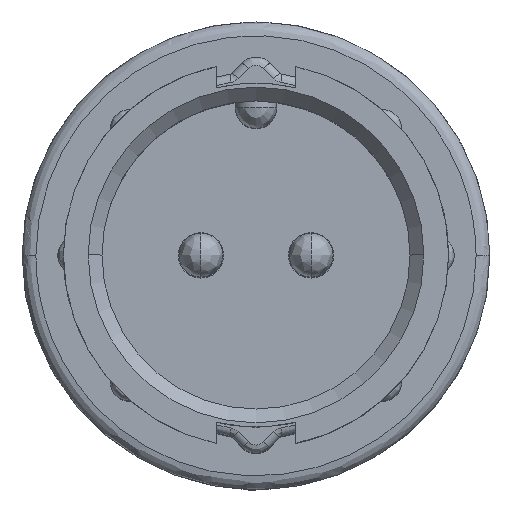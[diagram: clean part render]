
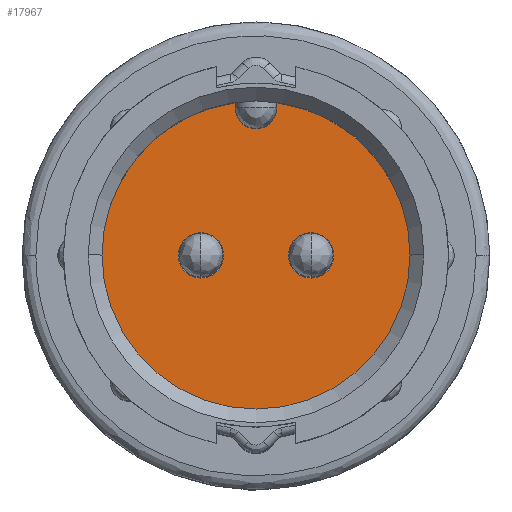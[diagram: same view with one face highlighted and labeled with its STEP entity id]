
A CAD part, top view. The second image highlights one B-rep face of the part: STEP entity #17967.
In plain terms, the highlighted planar face has unit normal (0, 0, 1).
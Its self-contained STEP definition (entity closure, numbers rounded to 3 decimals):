
#10 = CIRCLE ( 'NONE', #24947, 0.825 ) ;
#344 = VECTOR ( 'NONE', #8887, 1000. ) ;
#503 = DIRECTION ( 'NONE',  ( 0., 0., 1. ) ) ;
#588 = AXIS2_PLACEMENT_3D ( 'NONE', #10433, #6310, #15585 ) ;
#786 = DIRECTION ( 'NONE',  ( 1., 0., 0. ) ) ;
#973 = ORIENTED_EDGE ( 'NONE', *, *, #6401, .F. ) ;
#1552 = DIRECTION ( 'NONE',  ( 0., 0., 1. ) ) ;
#1626 = CARTESIAN_POINT ( 'NONE',  ( 0.75, 5.35, -9. ) ) ;
#1907 = CIRCLE ( 'NONE', #17920, 0.825 ) ;
#2811 = EDGE_CURVE ( 'NONE', #20245, #25725, #20908, .T. ) ;
#3041 = DIRECTION ( 'NONE',  ( 0., 0., 1. ) ) ;
#3460 = CARTESIAN_POINT ( 'NONE',  ( 2.825, 0., -9. ) ) ;
#3536 = VERTEX_POINT ( 'NONE', #17130 ) ;
#4273 = EDGE_CURVE ( 'NONE', #8715, #23580, #15720, .T. ) ;
#4515 = CARTESIAN_POINT ( 'NONE',  ( 0., 5.35, -9. ) ) ;
#4625 = CARTESIAN_POINT ( 'NONE',  ( -0.75, -0.026, -9. ) ) ;
#5576 = EDGE_CURVE ( 'NONE', #25853, #20245, #6774, .T. ) ;
#5953 = CARTESIAN_POINT ( 'NONE',  ( -0.75, 5.35, -9. ) ) ;
#6310 = DIRECTION ( 'NONE',  ( 0., 0., 1. ) ) ;
#6401 = EDGE_CURVE ( 'NONE', #16394, #23696, #13193, .T. ) ;
#6407 = DIRECTION ( 'NONE',  ( 1., 0., 0. ) ) ;
#6619 = DIRECTION ( 'NONE',  ( 0., 0., 1. ) ) ;
#6774 = CIRCLE ( 'NONE', #588, 5.6 ) ;
#7330 = EDGE_CURVE ( 'NONE', #3536, #9872, #10, .T. ) ;
#7405 = AXIS2_PLACEMENT_3D ( 'NONE', #4515, #10227, #28205 ) ;
#7903 = EDGE_CURVE ( 'NONE', #25725, #23580, #27010, .T. ) ;
#8166 = CARTESIAN_POINT ( 'NONE',  ( -5.824, -5.825, -9. ) ) ;
#8715 = VERTEX_POINT ( 'NONE', #1626 ) ;
#8779 = DIRECTION ( 'NONE',  ( 0., 0., 1. ) ) ;
#8819 = CARTESIAN_POINT ( 'NONE',  ( 2., 0., -9. ) ) ;
#8887 = DIRECTION ( 'NONE',  ( 0., -1., 0. ) ) ;
#9277 = VECTOR ( 'NONE', #26634, 1000. ) ;
#9872 = VERTEX_POINT ( 'NONE', #12647 ) ;
#9899 = ORIENTED_EDGE ( 'NONE', *, *, #21596, .F. ) ;
#10168 = ORIENTED_EDGE ( 'NONE', *, *, #5576, .T. ) ;
#10227 = DIRECTION ( 'NONE',  ( 0., 0., 1. ) ) ;
#10433 = CARTESIAN_POINT ( 'NONE',  ( 0., 0., -9. ) ) ;
#10665 = DIRECTION ( 'NONE',  ( 0., 0., 1. ) ) ;
#10999 = AXIS2_PLACEMENT_3D ( 'NONE', #18617, #503, #786 ) ;
#11171 = DIRECTION ( 'NONE',  ( 1., 0., 0. ) ) ;
#11706 = ORIENTED_EDGE ( 'NONE', *, *, #27537, .F. ) ;
#11725 = CARTESIAN_POINT ( 'NONE',  ( 0., 0., -9. ) ) ;
#11909 = CARTESIAN_POINT ( 'NONE',  ( 1.175, 0., -9. ) ) ;
#12360 = ORIENTED_EDGE ( 'NONE', *, *, #27157, .F. ) ;
#12590 = CARTESIAN_POINT ( 'NONE',  ( 2., 0., -9. ) ) ;
#12647 = CARTESIAN_POINT ( 'NONE',  ( -2.825, 0., -9. ) ) ;
#13193 = CIRCLE ( 'NONE', #13660, 0.825 ) ;
#13639 = DIRECTION ( 'NONE',  ( 0., 0., 1. ) ) ;
#13660 = AXIS2_PLACEMENT_3D ( 'NONE', #12590, #1552, #28078 ) ;
#14284 = AXIS2_PLACEMENT_3D ( 'NONE', #11725, #3041, #21011 ) ;
#15071 = EDGE_LOOP ( 'NONE', ( #16959, #28376 ) ) ;
#15384 = PLANE ( 'NONE',  #27238 ) ;
#15585 = DIRECTION ( 'NONE',  ( 1., 0., 0. ) ) ;
#15720 = LINE ( 'NONE', #17644, #9277 ) ;
#16394 = VERTEX_POINT ( 'NONE', #11909 ) ;
#16959 = ORIENTED_EDGE ( 'NONE', *, *, #7330, .F. ) ;
#17130 = CARTESIAN_POINT ( 'NONE',  ( -1.175, 0., -9. ) ) ;
#17291 = CARTESIAN_POINT ( 'NONE',  ( 0.75, 5.55, -9. ) ) ;
#17644 = CARTESIAN_POINT ( 'NONE',  ( 0.75, -0.026, -9. ) ) ;
#17920 = AXIS2_PLACEMENT_3D ( 'NONE', #23966, #8779, #24115 ) ;
#17936 = CIRCLE ( 'NONE', #21232, 0.825 ) ;
#17967 = ADVANCED_FACE ( 'NONE', ( #19816, #21881, #26593 ), #15384, .T. ) ;
#18177 = ORIENTED_EDGE ( 'NONE', *, *, #7903, .T. ) ;
#18617 = CARTESIAN_POINT ( 'NONE',  ( 0., 0., -9. ) ) ;
#19816 = FACE_BOUND ( 'NONE', #28528, .T. ) ;
#20245 = VERTEX_POINT ( 'NONE', #25740 ) ;
#20908 = CIRCLE ( 'NONE', #10999, 5.6 ) ;
#21011 = DIRECTION ( 'NONE',  ( 1., 0., 0. ) ) ;
#21232 = AXIS2_PLACEMENT_3D ( 'NONE', #8819, #6619, #11171 ) ;
#21451 = ORIENTED_EDGE ( 'NONE', *, *, #4273, .F. ) ;
#21596 = EDGE_CURVE ( 'NONE', #23696, #16394, #17936, .T. ) ;
#21881 = FACE_BOUND ( 'NONE', #15071, .T. ) ;
#22504 = CARTESIAN_POINT ( 'NONE',  ( -2., 0., -9. ) ) ;
#23284 = CARTESIAN_POINT ( 'NONE',  ( 5.6, 0., -9. ) ) ;
#23580 = VERTEX_POINT ( 'NONE', #17291 ) ;
#23696 = VERTEX_POINT ( 'NONE', #3460 ) ;
#23713 = CARTESIAN_POINT ( 'NONE',  ( -0.75, 5.55, -9. ) ) ;
#23966 = CARTESIAN_POINT ( 'NONE',  ( -2., 0., -9. ) ) ;
#24053 = ORIENTED_EDGE ( 'NONE', *, *, #2811, .T. ) ;
#24115 = DIRECTION ( 'NONE',  ( 1., 0., 0. ) ) ;
#24474 = EDGE_CURVE ( 'NONE', #9872, #3536, #1907, .T. ) ;
#24947 = AXIS2_PLACEMENT_3D ( 'NONE', #22504, #13639, #28838 ) ;
#25725 = VERTEX_POINT ( 'NONE', #23284 ) ;
#25732 = EDGE_LOOP ( 'NONE', ( #10168, #24053, #18177, #21451, #12360, #11706 ) ) ;
#25740 = CARTESIAN_POINT ( 'NONE',  ( -5.6, 0., -9. ) ) ;
#25853 = VERTEX_POINT ( 'NONE', #23713 ) ;
#26593 = FACE_OUTER_BOUND ( 'NONE', #25732, .T. ) ;
#26634 = DIRECTION ( 'NONE',  ( 0., 1., 0. ) ) ;
#26722 = LINE ( 'NONE', #4625, #344 ) ;
#27010 = CIRCLE ( 'NONE', #14284, 5.6 ) ;
#27157 = EDGE_CURVE ( 'NONE', #27443, #8715, #27174, .T. ) ;
#27174 = CIRCLE ( 'NONE', #7405, 0.75 ) ;
#27238 = AXIS2_PLACEMENT_3D ( 'NONE', #8166, #10665, #6407 ) ;
#27443 = VERTEX_POINT ( 'NONE', #5953 ) ;
#27537 = EDGE_CURVE ( 'NONE', #25853, #27443, #26722, .T. ) ;
#28078 = DIRECTION ( 'NONE',  ( 1., 0., 0. ) ) ;
#28205 = DIRECTION ( 'NONE',  ( 1., 0., 0. ) ) ;
#28376 = ORIENTED_EDGE ( 'NONE', *, *, #24474, .F. ) ;
#28528 = EDGE_LOOP ( 'NONE', ( #9899, #973 ) ) ;
#28838 = DIRECTION ( 'NONE',  ( 1., 0., 0. ) ) ;
